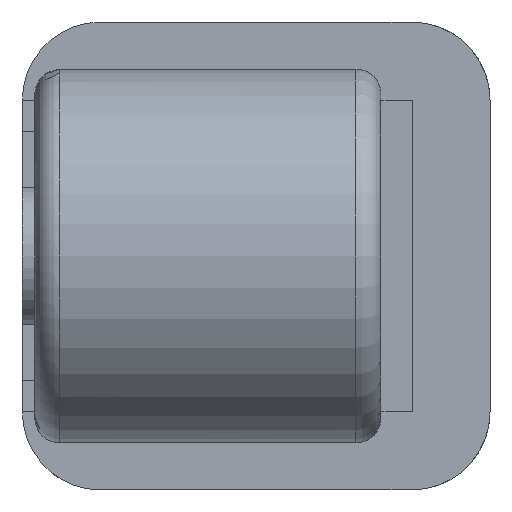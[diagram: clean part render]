
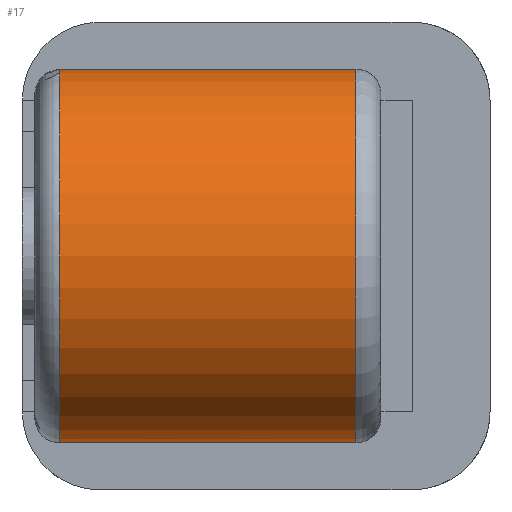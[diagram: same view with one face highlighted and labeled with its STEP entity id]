
A CAD part, left-side view. The second image highlights one B-rep face of the part: STEP entity #17.
In plain terms, the highlighted cylindrical face has radius 6 mm (diameter 12 mm), a partial arc.
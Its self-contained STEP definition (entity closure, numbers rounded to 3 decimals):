
#17 = ADVANCED_FACE('',(#18),#32,.T.);
#18 = FACE_BOUND('',#19,.T.);
#19 = EDGE_LOOP('',(#20,#53,#82,#103,#143,#172));
#20 = ORIENTED_EDGE('',*,*,#21,.F.);
#21 = EDGE_CURVE('',#22,#24,#26,.T.);
#22 = VERTEX_POINT('',#23);
#23 = CARTESIAN_POINT('',(5.,6.3,3.317));
#24 = VERTEX_POINT('',#25);
#25 = CARTESIAN_POINT('',(5.,-2.236,3.317));
#26 = SURFACE_CURVE('',#27,(#31,#42),.PCURVE_S1.);
#27 = LINE('',#28,#29);
#28 = CARTESIAN_POINT('',(5.,7.1,3.317));
#29 = VECTOR('',#30,1.);
#30 = DIRECTION('',(0.,-1.,0.));
#31 = PCURVE('',#32,#37);
#32 = CYLINDRICAL_SURFACE('',#33,6.);
#33 = AXIS2_PLACEMENT_3D('',#34,#35,#36);
#34 = CARTESIAN_POINT('',(0.,7.1,0.));
#35 = DIRECTION('',(0.,-1.,0.));
#36 = DIRECTION('',(1.,0.,0.));
#37 = DEFINITIONAL_REPRESENTATION('',(#38),#41);
#38 = B_SPLINE_CURVE_WITH_KNOTS('',1,(#39,#40),.UNSPECIFIED.,.F.,.F.,(2,
    2),(0.8,10.3),.PIECEWISE_BEZIER_KNOTS.);
#39 = CARTESIAN_POINT('',(0.586,0.8));
#40 = CARTESIAN_POINT('',(0.586,10.3));
#41 = ( GEOMETRIC_REPRESENTATION_CONTEXT(2) 
PARAMETRIC_REPRESENTATION_CONTEXT() REPRESENTATION_CONTEXT('2D SPACE',''
  ) );
#42 = PCURVE('',#43,#48);
#43 = PLANE('',#44);
#44 = AXIS2_PLACEMENT_3D('',#45,#46,#47);
#45 = CARTESIAN_POINT('',(5.,0.,0.));
#46 = DIRECTION('',(1.,0.,0.));
#47 = DIRECTION('',(0.,0.,-1.));
#48 = DEFINITIONAL_REPRESENTATION('',(#49),#52);
#49 = B_SPLINE_CURVE_WITH_KNOTS('',1,(#50,#51),.UNSPECIFIED.,.F.,.F.,(2,
    2),(0.8,10.3),.PIECEWISE_BEZIER_KNOTS.);
#50 = CARTESIAN_POINT('',(-3.317,6.3));
#51 = CARTESIAN_POINT('',(-3.317,-3.2));
#52 = ( GEOMETRIC_REPRESENTATION_CONTEXT(2) 
PARAMETRIC_REPRESENTATION_CONTEXT() REPRESENTATION_CONTEXT('2D SPACE',''
  ) );
#53 = ORIENTED_EDGE('',*,*,#54,.T.);
#54 = EDGE_CURVE('',#22,#55,#57,.T.);
#55 = VERTEX_POINT('',#56);
#56 = CARTESIAN_POINT('',(5.,6.3,-3.317));
#57 = SURFACE_CURVE('',#58,(#63,#70),.PCURVE_S1.);
#58 = CIRCLE('',#59,6.);
#59 = AXIS2_PLACEMENT_3D('',#60,#61,#62);
#60 = CARTESIAN_POINT('',(0.,6.3,0.));
#61 = DIRECTION('',(0.,-1.,0.));
#62 = DIRECTION('',(1.,0.,0.));
#63 = PCURVE('',#32,#64);
#64 = DEFINITIONAL_REPRESENTATION('',(#65),#69);
#65 = LINE('',#66,#67);
#66 = CARTESIAN_POINT('',(0.,0.8));
#67 = VECTOR('',#68,1.);
#68 = DIRECTION('',(1.,0.));
#69 = ( GEOMETRIC_REPRESENTATION_CONTEXT(2) 
PARAMETRIC_REPRESENTATION_CONTEXT() REPRESENTATION_CONTEXT('2D SPACE',''
  ) );
#70 = PCURVE('',#71,#76);
#71 = TOROIDAL_SURFACE('',#72,5.2,0.8);
#72 = AXIS2_PLACEMENT_3D('',#73,#74,#75);
#73 = CARTESIAN_POINT('',(0.,6.3,0.));
#74 = DIRECTION('',(-0.,1.,0.));
#75 = DIRECTION('',(1.,0.,0.));
#76 = DEFINITIONAL_REPRESENTATION('',(#77),#81);
#77 = LINE('',#78,#79);
#78 = CARTESIAN_POINT('',(-0.,0.));
#79 = VECTOR('',#80,1.);
#80 = DIRECTION('',(-1.,0.));
#81 = ( GEOMETRIC_REPRESENTATION_CONTEXT(2) 
PARAMETRIC_REPRESENTATION_CONTEXT() REPRESENTATION_CONTEXT('2D SPACE',''
  ) );
#82 = ORIENTED_EDGE('',*,*,#83,.T.);
#83 = EDGE_CURVE('',#55,#84,#86,.T.);
#84 = VERTEX_POINT('',#85);
#85 = CARTESIAN_POINT('',(5.,-2.236,-3.317));
#86 = SURFACE_CURVE('',#87,(#91,#97),.PCURVE_S1.);
#87 = LINE('',#88,#89);
#88 = CARTESIAN_POINT('',(5.,7.1,-3.317));
#89 = VECTOR('',#90,1.);
#90 = DIRECTION('',(0.,-1.,0.));
#91 = PCURVE('',#32,#92);
#92 = DEFINITIONAL_REPRESENTATION('',(#93),#96);
#93 = B_SPLINE_CURVE_WITH_KNOTS('',1,(#94,#95),.UNSPECIFIED.,.F.,.F.,(2,
    2),(0.8,10.3),.PIECEWISE_BEZIER_KNOTS.);
#94 = CARTESIAN_POINT('',(5.697,0.8));
#95 = CARTESIAN_POINT('',(5.697,10.3));
#96 = ( GEOMETRIC_REPRESENTATION_CONTEXT(2) 
PARAMETRIC_REPRESENTATION_CONTEXT() REPRESENTATION_CONTEXT('2D SPACE',''
  ) );
#97 = PCURVE('',#43,#98);
#98 = DEFINITIONAL_REPRESENTATION('',(#99),#102);
#99 = B_SPLINE_CURVE_WITH_KNOTS('',1,(#100,#101),.UNSPECIFIED.,.F.,.F.,(
    2,2),(0.8,10.3),.PIECEWISE_BEZIER_KNOTS.);
#100 = CARTESIAN_POINT('',(3.317,6.3));
#101 = CARTESIAN_POINT('',(3.317,-3.2));
#102 = ( GEOMETRIC_REPRESENTATION_CONTEXT(2) 
PARAMETRIC_REPRESENTATION_CONTEXT() REPRESENTATION_CONTEXT('2D SPACE',''
  ) );
#103 = ORIENTED_EDGE('',*,*,#104,.F.);
#104 = EDGE_CURVE('',#105,#84,#107,.T.);
#105 = VERTEX_POINT('',#106);
#106 = CARTESIAN_POINT('',(5.499,-3.2,-2.4));
#107 = SURFACE_CURVE('',#108,(#116,#127),.PCURVE_S1.);
#108 = B_SPLINE_CURVE_WITH_KNOTS('',6,(#109,#110,#111,#112,#113,#114,
    #115),.UNSPECIFIED.,.F.,.F.,(7,7),(0.,1.),.PIECEWISE_BEZIER_KNOTS.);
#109 = CARTESIAN_POINT('',(5.499,-3.2,-2.4));
#110 = CARTESIAN_POINT('',(5.417,-3.059,
    -2.588));
#111 = CARTESIAN_POINT('',(5.332,-2.908,
    -2.761));
#112 = CARTESIAN_POINT('',(5.247,-2.75,-2.92
    ));
#113 = CARTESIAN_POINT('',(5.162,-2.585,
    -3.065));
#114 = CARTESIAN_POINT('',(5.079,-2.414,
    -3.197));
#115 = CARTESIAN_POINT('',(5.,-2.236,
    -3.317));
#116 = PCURVE('',#32,#117);
#117 = DEFINITIONAL_REPRESENTATION('',(#118),#126);
#118 = B_SPLINE_CURVE_WITH_KNOTS('',6,(#119,#120,#121,#122,#123,#124,
    #125),.UNSPECIFIED.,.F.,.F.,(7,7),(0.,1.),.PIECEWISE_BEZIER_KNOTS.);
#119 = CARTESIAN_POINT('',(5.872,10.3));
#120 = CARTESIAN_POINT('',(5.837,10.159));
#121 = CARTESIAN_POINT('',(5.805,10.008));
#122 = CARTESIAN_POINT('',(5.775,9.85));
#123 = CARTESIAN_POINT('',(5.747,9.685));
#124 = CARTESIAN_POINT('',(5.721,9.514));
#125 = CARTESIAN_POINT('',(5.697,9.336));
#126 = ( GEOMETRIC_REPRESENTATION_CONTEXT(2) 
PARAMETRIC_REPRESENTATION_CONTEXT() REPRESENTATION_CONTEXT('2D SPACE',''
  ) );
#127 = PCURVE('',#128,#133);
#128 = CYLINDRICAL_SURFACE('',#129,4.);
#129 = AXIS2_PLACEMENT_3D('',#130,#131,#132);
#130 = CARTESIAN_POINT('',(5.,0.,0.));
#131 = DIRECTION('',(1.,0.,0.));
#132 = DIRECTION('',(0.,0.,-1.));
#133 = DEFINITIONAL_REPRESENTATION('',(#134),#142);
#134 = B_SPLINE_CURVE_WITH_KNOTS('',6,(#135,#136,#137,#138,#139,#140,
    #141),.UNSPECIFIED.,.F.,.F.,(7,7),(0.,1.),.PIECEWISE_BEZIER_KNOTS.);
#135 = CARTESIAN_POINT('',(5.356,0.499));
#136 = CARTESIAN_POINT('',(5.415,0.417));
#137 = CARTESIAN_POINT('',(5.472,0.332));
#138 = CARTESIAN_POINT('',(5.528,0.247));
#139 = CARTESIAN_POINT('',(5.582,0.162));
#140 = CARTESIAN_POINT('',(5.636,0.079));
#141 = CARTESIAN_POINT('',(5.69,0.));
#142 = ( GEOMETRIC_REPRESENTATION_CONTEXT(2) 
PARAMETRIC_REPRESENTATION_CONTEXT() REPRESENTATION_CONTEXT('2D SPACE',''
  ) );
#143 = ORIENTED_EDGE('',*,*,#144,.F.);
#144 = EDGE_CURVE('',#145,#105,#147,.T.);
#145 = VERTEX_POINT('',#146);
#146 = CARTESIAN_POINT('',(5.499,-3.2,2.4));
#147 = SURFACE_CURVE('',#148,(#153,#160),.PCURVE_S1.);
#148 = CIRCLE('',#149,6.);
#149 = AXIS2_PLACEMENT_3D('',#150,#151,#152);
#150 = CARTESIAN_POINT('',(0.,-3.2,0.));
#151 = DIRECTION('',(0.,-1.,0.));
#152 = DIRECTION('',(1.,0.,0.));
#153 = PCURVE('',#32,#154);
#154 = DEFINITIONAL_REPRESENTATION('',(#155),#159);
#155 = LINE('',#156,#157);
#156 = CARTESIAN_POINT('',(0.,10.3));
#157 = VECTOR('',#158,1.);
#158 = DIRECTION('',(1.,0.));
#159 = ( GEOMETRIC_REPRESENTATION_CONTEXT(2) 
PARAMETRIC_REPRESENTATION_CONTEXT() REPRESENTATION_CONTEXT('2D SPACE',''
  ) );
#160 = PCURVE('',#161,#166);
#161 = TOROIDAL_SURFACE('',#162,5.2,0.8);
#162 = AXIS2_PLACEMENT_3D('',#163,#164,#165);
#163 = CARTESIAN_POINT('',(0.,-3.2,0.));
#164 = DIRECTION('',(0.,-1.,0.));
#165 = DIRECTION('',(1.,0.,0.));
#166 = DEFINITIONAL_REPRESENTATION('',(#167),#171);
#167 = LINE('',#168,#169);
#168 = CARTESIAN_POINT('',(0.,0.));
#169 = VECTOR('',#170,1.);
#170 = DIRECTION('',(1.,0.));
#171 = ( GEOMETRIC_REPRESENTATION_CONTEXT(2) 
PARAMETRIC_REPRESENTATION_CONTEXT() REPRESENTATION_CONTEXT('2D SPACE',''
  ) );
#172 = ORIENTED_EDGE('',*,*,#173,.F.);
#173 = EDGE_CURVE('',#24,#145,#174,.T.);
#174 = SURFACE_CURVE('',#175,(#183,#194),.PCURVE_S1.);
#175 = B_SPLINE_CURVE_WITH_KNOTS('',6,(#176,#177,#178,#179,#180,#181,
    #182),.UNSPECIFIED.,.F.,.F.,(7,7),(0.,1.),.PIECEWISE_BEZIER_KNOTS.);
#176 = CARTESIAN_POINT('',(5.,-2.236,3.317
    ));
#177 = CARTESIAN_POINT('',(5.079,-2.414,3.197
    ));
#178 = CARTESIAN_POINT('',(5.162,-2.585,3.065
    ));
#179 = CARTESIAN_POINT('',(5.247,-2.75,2.92
    ));
#180 = CARTESIAN_POINT('',(5.332,-2.908,2.761)
  );
#181 = CARTESIAN_POINT('',(5.417,-3.059,2.588
    ));
#182 = CARTESIAN_POINT('',(5.499,-3.2,2.4));
#183 = PCURVE('',#32,#184);
#184 = DEFINITIONAL_REPRESENTATION('',(#185),#193);
#185 = B_SPLINE_CURVE_WITH_KNOTS('',6,(#186,#187,#188,#189,#190,#191,
    #192),.UNSPECIFIED.,.F.,.F.,(7,7),(0.,1.),.PIECEWISE_BEZIER_KNOTS.);
#186 = CARTESIAN_POINT('',(0.586,9.336));
#187 = CARTESIAN_POINT('',(0.562,9.514));
#188 = CARTESIAN_POINT('',(0.536,9.685));
#189 = CARTESIAN_POINT('',(0.508,9.85));
#190 = CARTESIAN_POINT('',(0.478,10.008));
#191 = CARTESIAN_POINT('',(0.446,10.159));
#192 = CARTESIAN_POINT('',(0.412,10.3));
#193 = ( GEOMETRIC_REPRESENTATION_CONTEXT(2) 
PARAMETRIC_REPRESENTATION_CONTEXT() REPRESENTATION_CONTEXT('2D SPACE',''
  ) );
#194 = PCURVE('',#128,#195);
#195 = DEFINITIONAL_REPRESENTATION('',(#196),#204);
#196 = B_SPLINE_CURVE_WITH_KNOTS('',6,(#197,#198,#199,#200,#201,#202,
    #203),.UNSPECIFIED.,.F.,.F.,(7,7),(0.,1.),.PIECEWISE_BEZIER_KNOTS.);
#197 = CARTESIAN_POINT('',(3.735,0.));
#198 = CARTESIAN_POINT('',(3.788,0.079));
#199 = CARTESIAN_POINT('',(3.842,0.162));
#200 = CARTESIAN_POINT('',(3.897,0.247));
#201 = CARTESIAN_POINT('',(3.953,0.332));
#202 = CARTESIAN_POINT('',(4.01,0.417));
#203 = CARTESIAN_POINT('',(4.069,0.499));
#204 = ( GEOMETRIC_REPRESENTATION_CONTEXT(2) 
PARAMETRIC_REPRESENTATION_CONTEXT() REPRESENTATION_CONTEXT('2D SPACE',''
  ) );
